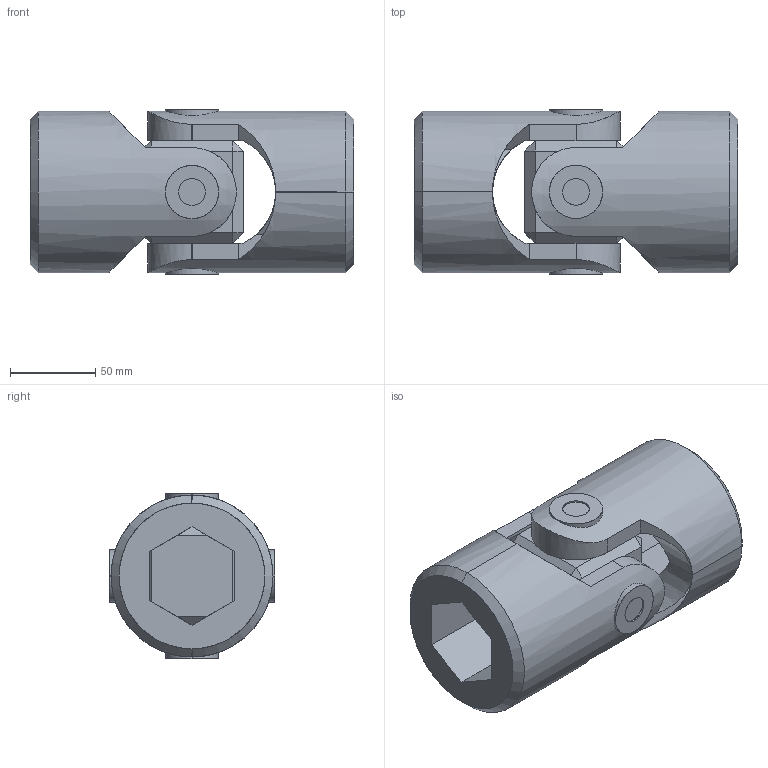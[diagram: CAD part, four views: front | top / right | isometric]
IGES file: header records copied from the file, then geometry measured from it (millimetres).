
Start section: SolidWorks IGES file using analytic representation for surfaces
Global section: file name: C:\Users\IanO\Desktop\R3690_v2\R3690_v2_20231020_IGES\R3690.050-HB.igs; native system: SolidWorks 2019; preprocessor: SolidWorks 2019; author: IanO; date: 231020.152909; units: millimetre
Bounding box: 190 x 96.9 x 96.9 mm (x, y, z)
Surface area: 143922.7 mm2 (no closed solid volume)
Topology: 0 solids, 0 shells, 112 faces, 2788 edges, 2788 vertices
Faces by surface type: bspline 68, revolution 44
